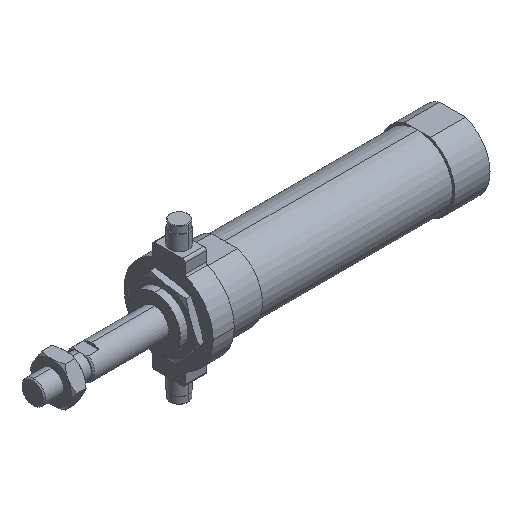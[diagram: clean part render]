
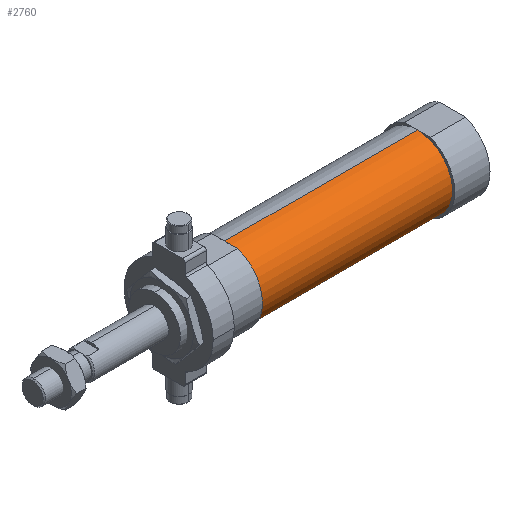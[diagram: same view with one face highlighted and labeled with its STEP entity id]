
A CAD part, isometric view. The second image highlights one B-rep face of the part: STEP entity #2760.
In plain terms, the highlighted cylindrical face has radius 15 mm (diameter 30 mm), a partial arc.
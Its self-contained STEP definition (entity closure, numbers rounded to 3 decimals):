
#231 = ORIENTED_EDGE ( 'NONE', *, *, #3158, .F. ) ;
#259 = DIRECTION ( 'NONE',  ( 0., 0., 1. ) ) ;
#311 = EDGE_LOOP ( 'NONE', ( #231, #1046, #739, #3411 ) ) ;
#459 = AXIS2_PLACEMENT_3D ( 'NONE', #2283, #1298, #259 ) ;
#489 = VERTEX_POINT ( 'NONE', #3211 ) ;
#503 = CARTESIAN_POINT ( 'NONE',  ( 164., 0., -15. ) ) ;
#739 = ORIENTED_EDGE ( 'NONE', *, *, #1140, .T. ) ;
#774 = CIRCLE ( 'NONE', #459, 15. ) ;
#901 = CARTESIAN_POINT ( 'NONE',  ( 164., 0., 15. ) ) ;
#1024 = EDGE_CURVE ( 'NONE', #1669, #1078, #3089, .T. ) ;
#1025 = CARTESIAN_POINT ( 'NONE',  ( -6.469, 0., 0. ) ) ;
#1046 = ORIENTED_EDGE ( 'NONE', *, *, #1024, .T. ) ;
#1056 = EDGE_CURVE ( 'NONE', #1139, #489, #774, .T. ) ;
#1078 = VERTEX_POINT ( 'NONE', #901 ) ;
#1139 = VERTEX_POINT ( 'NONE', #2558 ) ;
#1140 = EDGE_CURVE ( 'NONE', #1078, #489, #3046, .T. ) ;
#1171 = CARTESIAN_POINT ( 'NONE',  ( -6.469, 0., -15. ) ) ;
#1285 = DIRECTION ( 'NONE',  ( -1., 0., 0. ) ) ;
#1297 = LINE ( 'NONE', #1171, #3688 ) ;
#1298 = DIRECTION ( 'NONE',  ( -1., 0., 0. ) ) ;
#1503 = DIRECTION ( 'NONE',  ( -1., 0., 0. ) ) ;
#1669 = VERTEX_POINT ( 'NONE', #503 ) ;
#1717 = DIRECTION ( 'NONE',  ( -1., 0., 0. ) ) ;
#1977 = AXIS2_PLACEMENT_3D ( 'NONE', #1025, #3614, #2945 ) ;
#2266 = CARTESIAN_POINT ( 'NONE',  ( 164., 0., 0. ) ) ;
#2283 = CARTESIAN_POINT ( 'NONE',  ( 82., 0., 0. ) ) ;
#2330 = CARTESIAN_POINT ( 'NONE',  ( -6.469, 0., 15. ) ) ;
#2558 = CARTESIAN_POINT ( 'NONE',  ( 82., 0., -15. ) ) ;
#2735 = AXIS2_PLACEMENT_3D ( 'NONE', #2266, #1285, #4182 ) ;
#2756 = VECTOR ( 'NONE', #1717, 1000. ) ;
#2760 = ADVANCED_FACE ( 'NONE', ( #3846 ), #3997, .T. ) ;
#2945 = DIRECTION ( 'NONE',  ( 0., 0., 1. ) ) ;
#3046 = LINE ( 'NONE', #2330, #2756 ) ;
#3089 = CIRCLE ( 'NONE', #2735, 15. ) ;
#3158 = EDGE_CURVE ( 'NONE', #1669, #1139, #1297, .T. ) ;
#3211 = CARTESIAN_POINT ( 'NONE',  ( 82., 0., 15. ) ) ;
#3411 = ORIENTED_EDGE ( 'NONE', *, *, #1056, .F. ) ;
#3614 = DIRECTION ( 'NONE',  ( -1., 0., 0. ) ) ;
#3688 = VECTOR ( 'NONE', #1503, 1000. ) ;
#3846 = FACE_OUTER_BOUND ( 'NONE', #311, .T. ) ;
#3997 = CYLINDRICAL_SURFACE ( 'NONE', #1977, 15. ) ;
#4182 = DIRECTION ( 'NONE',  ( 0., 0., 1. ) ) ;
